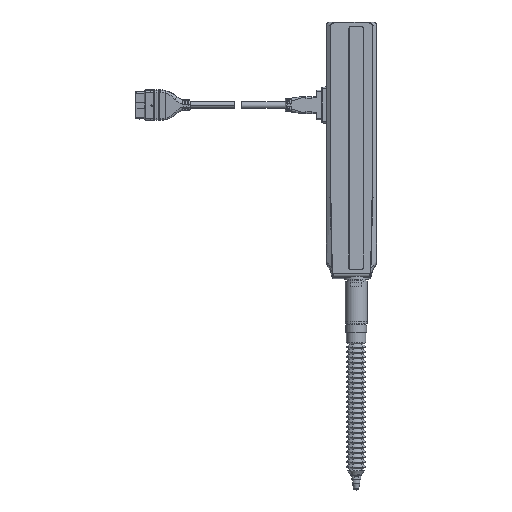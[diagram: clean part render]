
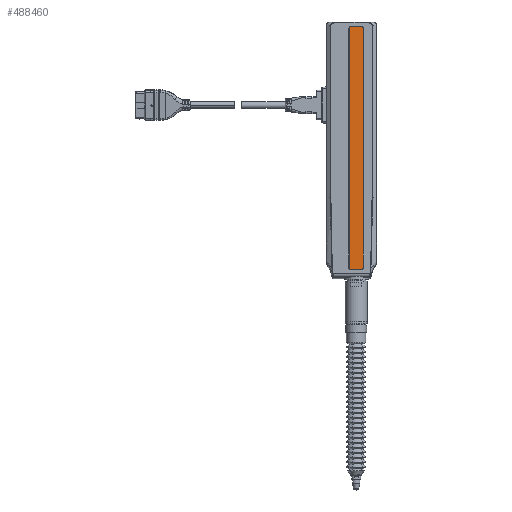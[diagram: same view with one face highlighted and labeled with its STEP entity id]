
A CAD part, top view. The second image highlights one B-rep face of the part: STEP entity #488460.
In plain terms, the highlighted planar face has unit normal (0, 0, 1).
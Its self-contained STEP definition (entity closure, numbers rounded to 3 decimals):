
#486980=CARTESIAN_POINT('',(4.85,7.888,8.3));
#486990=VERTEX_POINT('',#486980);
#487020=CARTESIAN_POINT('',(4.85,7.1,8.3));
#487030=DIRECTION('',(0.,1.,0.));
#487040=VECTOR('',#487030,1.);
#487050=LINE('',#487020,#487040);
#487060=CARTESIAN_POINT('',(4.85,169.812,8.3));
#487070=VERTEX_POINT('',#487060);
#487080=EDGE_CURVE('',#486990,#487070,#487050,.T.);
#487240=CARTESIAN_POINT('',(4.85,170.6,8.3));
#487250=DIRECTION('',(-1.,0.,0.));
#487260=VECTOR('',#487250,1.);
#487270=LINE('',#487240,#487260);
#487280=CARTESIAN_POINT('',(4.062,170.6,8.3));
#487290=VERTEX_POINT('',#487280);
#487300=CARTESIAN_POINT('',(-4.062,170.6,8.3));
#487310=VERTEX_POINT('',#487300);
#487320=EDGE_CURVE('',#487290,#487310,#487270,.T.);
#487550=CARTESIAN_POINT('',(-4.85,170.6,8.3));
#487560=DIRECTION('',(0.,-1.,0.));
#487570=VECTOR('',#487560,1.);
#487580=LINE('',#487550,#487570);
#487590=CARTESIAN_POINT('',(-4.85,169.812,8.3));
#487600=VERTEX_POINT('',#487590);
#487610=CARTESIAN_POINT('',(-4.85,7.888,8.3));
#487620=VERTEX_POINT('',#487610);
#487630=EDGE_CURVE('',#487600,#487620,#487580,.T.);
#487880=CARTESIAN_POINT('',(-4.038,7.912,8.3));
#487890=DIRECTION('',(0.,0.,1.));
#487900=DIRECTION('',(0.707,0.707,0.));
#487910=AXIS2_PLACEMENT_3D('',#487880,#487890,#487900);
#487920=ELLIPSE('',#487910,0.824,0.8);
#487930=CARTESIAN_POINT('',(-4.062,7.1,8.3));
#487940=VERTEX_POINT('',#487930);
#487950=EDGE_CURVE('',#487620,#487940,#487920,.T.);
#488060=CARTESIAN_POINT('',(-19.137,31.754,8.3));
#488070=DIRECTION('',(0.,0.,1.));
#488080=DIRECTION('',(1.,0.,0.));
#488090=AXIS2_PLACEMENT_3D('',#488060,#488070,#488080);
#488100=PLANE('',#488090);
#488110=CARTESIAN_POINT('',(4.038,7.912,8.3));
#488120=DIRECTION('',(0.,0.,1.));
#488130=DIRECTION('',(-0.707,0.707,0.));
#488140=AXIS2_PLACEMENT_3D('',#488110,#488120,#488130);
#488150=ELLIPSE('',#488140,0.824,0.8);
#488160=CARTESIAN_POINT('',(4.062,7.1,8.3));
#488170=VERTEX_POINT('',#488160);
#488180=EDGE_CURVE('',#488170,#486990,#488150,.T.);
#488190=ORIENTED_EDGE('',*,*,#488180,.T.);
#488200=CARTESIAN_POINT('',(-4.85,7.1,8.3));
#488210=DIRECTION('',(1.,0.,0.));
#488220=VECTOR('',#488210,1.);
#488230=LINE('',#488200,#488220);
#488240=EDGE_CURVE('',#487940,#488170,#488230,.T.);
#488250=ORIENTED_EDGE('',*,*,#488240,.T.);
#488260=ORIENTED_EDGE('',*,*,#487950,.T.);
#488270=ORIENTED_EDGE('',*,*,#487630,.T.);
#488280=CARTESIAN_POINT('',(-4.038,169.788,8.3));
#488290=DIRECTION('',(0.,0.,1.));
#488300=DIRECTION('',(-0.707,0.707,0.));
#488310=AXIS2_PLACEMENT_3D('',#488280,#488290,#488300);
#488320=ELLIPSE('',#488310,0.824,0.8);
#488330=EDGE_CURVE('',#487310,#487600,#488320,.T.);
#488340=ORIENTED_EDGE('',*,*,#488330,.T.);
#488350=ORIENTED_EDGE('',*,*,#487320,.T.);
#488360=CARTESIAN_POINT('',(4.038,169.788,8.3));
#488370=DIRECTION('',(0.,0.,1.));
#488380=DIRECTION('',(0.707,0.707,0.));
#488390=AXIS2_PLACEMENT_3D('',#488360,#488370,#488380);
#488400=ELLIPSE('',#488390,0.824,0.8);
#488410=EDGE_CURVE('',#487070,#487290,#488400,.T.);
#488420=ORIENTED_EDGE('',*,*,#488410,.T.);
#488430=ORIENTED_EDGE('',*,*,#487080,.T.);
#488440=EDGE_LOOP('',(#488430,#488420,#488350,#488340,#488270,#488260,
#488250,#488190));
#488450=FACE_OUTER_BOUND('',#488440,.T.);
#488460=ADVANCED_FACE('',(#488450),#488100,.T.);
